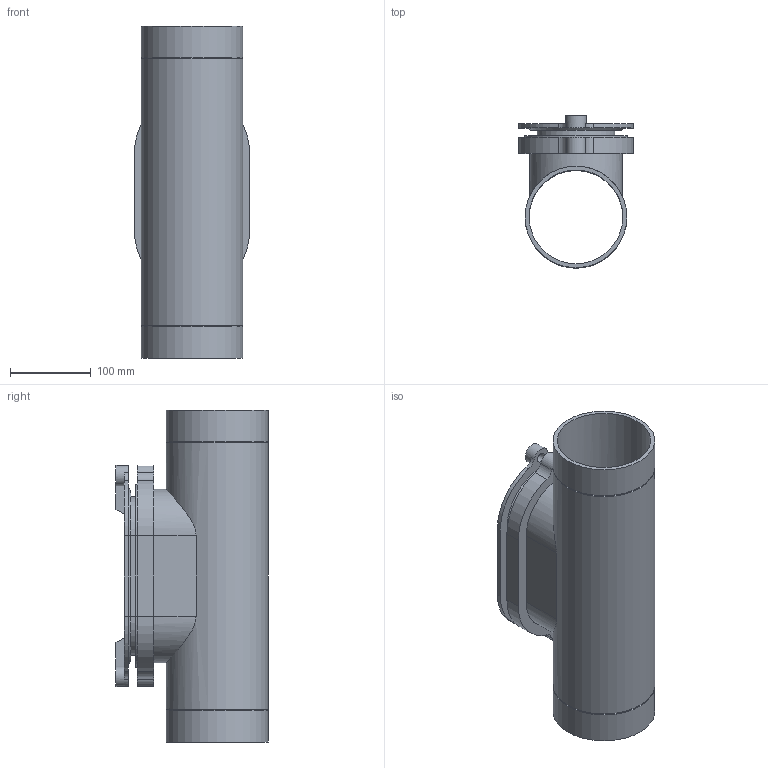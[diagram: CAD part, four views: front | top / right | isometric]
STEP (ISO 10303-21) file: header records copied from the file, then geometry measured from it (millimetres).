
FILE_DESCRIPTION(/* description */ (''),/* implementation_level */ '2;1');
FILE_NAME(/* name */ 'Z:\Geberit\Export\NewStep\368454.stp',/* time_stamp */ '2014-04-02T08:00:32+02:00',/* author */ ('Marco'),/* organization */ (''),/* preprocessor_version */ 'ST-DEVELOPER v15.2',/* originating_system */ 'Autodesk Inventor 2014',/* authorisation */ '');
FILE_SCHEMA (('AUTOMOTIVE_DESIGN { 1 0 10303 214 3 1 1 }'));
Length unit declared in the file: millimetre
Products named in the file (4): 853493; 853424; 853390; 368454
Bounding box: 142 x 187.72 x 410 mm (x, y, z)
Volume: 1345020.7 mm3; surface area: 524502.7 mm2
Topology: 3 solids, 3 shells, 121 faces, 314 edges, 202 vertices
Faces by surface type: plane 60, cylinder 49, cone 8, bspline 4
Full cylindrical faces by diameter (mm): 8.376 x2, 12 x2, 25 x2, 115.63 x1, 125.43 x3
Entity records: 4154 total; most frequent: CARTESIAN_POINT 1108, DIRECTION 628, ORIENTED_EDGE 604, EDGE_CURVE 298, AXIS2_PLACEMENT_3D 222, VERTEX_POINT 198, LINE 184, VECTOR 184
